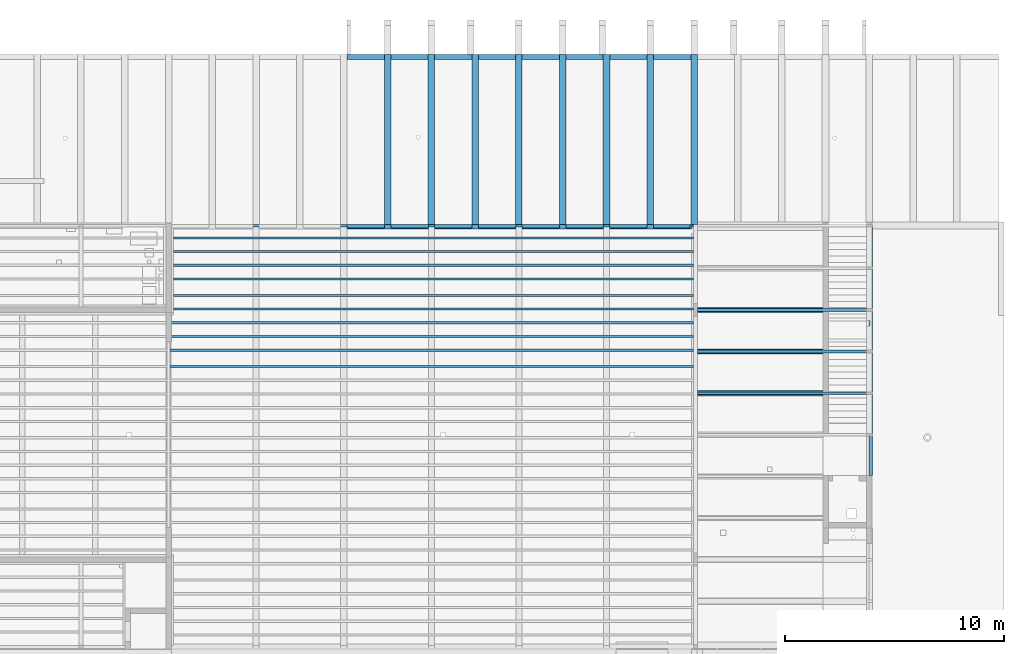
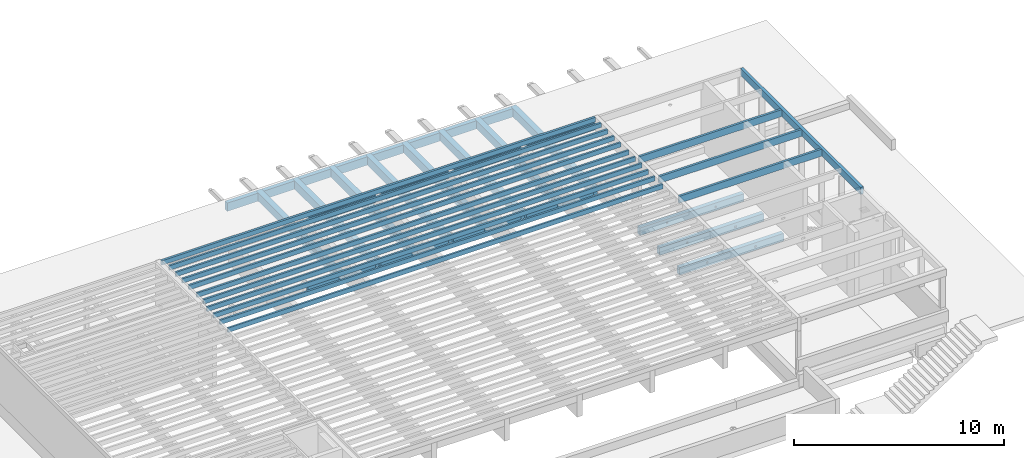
# One storey, part 4 of 14: 46 beams.
"""IFC2X3 building model written with IfcOpenShell, lengths in metres."""

from ifc_helpers import new_model, entity, si_unit, converted_unit, direction, frame, frame_2d, origin, origin_2d_with_axis, place, context, subcontext, project, spatial, rectangle, extrude, boolean, material, type_object, element, save


model = new_model("IFC2X3")

# Units and contexts
model_context = context("Model", 3, precision=1e-05, world=frame((30.086303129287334, 2.687674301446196, 462.0)), true_north=direction((0.19008937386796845, 0.9817667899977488)))
body_context = subcontext(model_context, "Body", "Model", "MODEL_VIEW")
ifc_project = project(units=[si_unit("LENGTHUNIT", "METRE"), si_unit("AREAUNIT", "SQUARE_METRE"), converted_unit("PLANEANGLEUNIT", "DEGREE", entity("IfcPlaneAngleMeasure", 0.017453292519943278), si_unit("PLANEANGLEUNIT", "RADIAN"), dimensions=[0, 0, 0, 0, 0, 0, 0]), si_unit("VOLUMEUNIT", "CUBIC_METRE")], contexts=[model_context])

# Site, building, storey
site_placement = place(None, origin())
site = spatial("IfcSite", under=ifc_project, at=site_placement, Name="Default", CompositionType="ELEMENT")
building_placement = place(site_placement, origin())
building = spatial("IfcBuilding", under=site, at=building_placement, CompositionType="ELEMENT")
storey_placement = place(building_placement, origin())
storey = spatial("IfcBuildingStorey", under=building, at=storey_placement, Name="FB_E00_OKFB", CompositionType="ELEMENT", Elevation=0.0)

# Beams
ifc_material_1 = material(Name="WS_TIMBER_GLT_0°")
beam_type_1 = type_object("IfcBeamType", Name="WS_TBM_GLT:TBM_GLT_300/480", PredefinedType="BEAM")
beam_1_placement = place(storey_placement, frame((72.10533609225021, 6.420351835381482, 3.935), z_axis=(0.0, 0.0, 1.0), x_axis=(0.0, -1.0, 0.0)))
element("IfcBeam", 1, at=beam_1_placement, inside=storey, type_object=beam_type_1, material=ifc_material_1, Name="WS_TBM_GLT:TBM_GLT_300/480", ObjectType="WS_TBM_GLT:TBM_GLT_300/480", context=body_context, shape_type="SweptSolid", body=[
    boolean("DIFFERENCE", boolean("DIFFERENCE", extrude(rectangle(XDim=0.4799999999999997, YDim=0.3000000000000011, at=frame_2d((0.0, 2.7755575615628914e-16), x_axis=(0.0, 1.0))), frame((-0.10999999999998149, 0.0, -0.24000000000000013), z_axis=(1.0, 0.0, 0.0), x_axis=(0.0, 1.0, 0.0)), (0.0, 0.0, 1.0), 7.764954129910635), extrude(rectangle(XDim=0.1, YDim=0.1, at=frame_2d((0.0, 0.0), x_axis=(0.0, 1.0))), frame((4.901341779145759, 0.14999999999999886, -0.23999999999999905), z_axis=(0.0, -1.0, 0.0), x_axis=(-1.0, 0.0, 0.0)), (0.0, 0.0, 1.0), 0.3000000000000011)), extrude(rectangle(XDim=0.1, YDim=0.1, at=frame_2d((0.0, 0.0), x_axis=(0.0, 1.0))), frame((4.3213417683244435, 0.14999999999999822, -0.2399999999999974), z_axis=(0.0, -1.0, 0.0), x_axis=(-1.0, 0.0, 0.0)), (0.0, 0.0, 1.0), 0.3000000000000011)),
])
beam_2_placement = place(storey_placement, frame((74.10533797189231, 6.420351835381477, 3.935), z_axis=(0.0, 0.0, 1.0), x_axis=(0.0, -1.0, 0.0)))
element("IfcBeam", 2, at=beam_2_placement, inside=storey, type_object=beam_type_1, material=ifc_material_1, Name="WS_TBM_GLT:TBM_GLT_300/480", ObjectType="WS_TBM_GLT:TBM_GLT_300/480", context=body_context, shape_type="SweptSolid", body=[
    boolean("DIFFERENCE", boolean("DIFFERENCE", extrude(rectangle(XDim=0.4799999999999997, YDim=0.3000000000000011, at=frame_2d((0.0, 2.7755575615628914e-16), x_axis=(0.0, 1.0))), frame((-0.10999999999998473, 0.0, -0.24000000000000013), z_axis=(1.0, 0.0, 0.0), x_axis=(0.0, 1.0, 0.0)), (0.0, 0.0, 1.0), 7.9249541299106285), extrude(rectangle(XDim=0.1, YDim=0.1, at=frame_2d((0.0, 0.0), x_axis=(0.0, 1.0))), frame((4.901341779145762, 0.14999999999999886, -0.23999999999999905), z_axis=(0.0, -1.0, 0.0), x_axis=(-1.0, 0.0, 0.0)), (0.0, 0.0, 1.0), 0.3000000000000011)), extrude(rectangle(XDim=0.1, YDim=0.1, at=frame_2d((0.0, 0.0), x_axis=(0.0, 1.0))), frame((4.321341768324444, 0.14999999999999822, -0.2399999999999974), z_axis=(0.0, -1.0, 0.0), x_axis=(-1.0, 0.0, 0.0)), (0.0, 0.0, 1.0), 0.3000000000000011)),
])
beam_3_placement = place(storey_placement, frame((76.10533735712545, 6.420351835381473, 3.935), z_axis=(0.0, 0.0, 1.0), x_axis=(0.0, -1.0, 0.0)))
element("IfcBeam", 3, at=beam_3_placement, inside=storey, type_object=beam_type_1, material=ifc_material_1, Name="WS_TBM_GLT:TBM_GLT_300/480", ObjectType="WS_TBM_GLT:TBM_GLT_300/480", context=body_context, shape_type="SweptSolid", body=[
    boolean("DIFFERENCE", boolean("DIFFERENCE", extrude(rectangle(XDim=0.4799999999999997, YDim=0.3000000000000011, at=frame_2d((0.0, 2.7755575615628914e-16), x_axis=(0.0, 1.0))), frame((-0.1099999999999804, 0.0, -0.24000000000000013), z_axis=(1.0, 0.0, 0.0), x_axis=(0.0, 1.0, 0.0)), (0.0, 0.0, 1.0), 7.764954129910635), extrude(rectangle(XDim=0.1, YDim=0.1, at=frame_2d((0.0, 0.0), x_axis=(0.0, 1.0))), frame((4.901341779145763, 0.14999999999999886, -0.23999999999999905), z_axis=(0.0, -1.0, 0.0), x_axis=(-1.0, 0.0, 0.0)), (0.0, 0.0, 1.0), 0.3000000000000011)), extrude(rectangle(XDim=0.1, YDim=0.1, at=frame_2d((0.0, 0.0), x_axis=(0.0, 1.0))), frame((4.321341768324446, 0.14999999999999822, -0.2399999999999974), z_axis=(0.0, -1.0, 0.0), x_axis=(-1.0, 0.0, 0.0)), (0.0, 0.0, 1.0), 0.3000000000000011)),
])
beam_4_placement = place(storey_placement, frame((78.10533759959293, 6.420351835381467, 3.935), z_axis=(0.0, 0.0, 1.0), x_axis=(0.0, -1.0, 0.0)))
element("IfcBeam", 4, at=beam_4_placement, inside=storey, type_object=beam_type_1, material=ifc_material_1, Name="WS_TBM_GLT:TBM_GLT_300/480", ObjectType="WS_TBM_GLT:TBM_GLT_300/480", context=body_context, shape_type="SweptSolid", body=[
    boolean("DIFFERENCE", boolean("DIFFERENCE", extrude(rectangle(XDim=0.4799999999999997, YDim=0.3000000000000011, at=frame_2d((0.0, 2.7755575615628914e-16), x_axis=(0.0, 1.0))), frame((-0.10999999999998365, 0.0, -0.24000000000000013), z_axis=(1.0, 0.0, 0.0), x_axis=(0.0, 1.0, 0.0)), (0.0, 0.0, 1.0), 7.9249541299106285), extrude(rectangle(XDim=0.09999999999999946, YDim=0.1, at=frame_2d((0.0, 2.706168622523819e-16), x_axis=(0.0, 1.0))), frame((4.901341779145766, 0.14999999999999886, -0.23999999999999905), z_axis=(0.0, -1.0, 0.0), x_axis=(-1.0, 0.0, 0.0)), (0.0, 0.0, 1.0), 0.30000000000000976)), extrude(rectangle(XDim=0.1, YDim=0.1, at=frame_2d((0.0, 0.0), x_axis=(0.0, 1.0))), frame((4.321341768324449, 0.14999999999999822, -0.2399999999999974), z_axis=(0.0, -1.0, 0.0), x_axis=(-1.0, 0.0, 0.0)), (0.0, 0.0, 1.0), 0.30000000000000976)),
])
beam_5_placement = place(storey_placement, frame((80.10533735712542, 6.420351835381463, 3.935), z_axis=(0.0, 0.0, 1.0), x_axis=(0.0, -1.0, 0.0)))
element("IfcBeam", 5, at=beam_5_placement, inside=storey, type_object=beam_type_1, material=ifc_material_1, Name="WS_TBM_GLT:TBM_GLT_300/480", ObjectType="WS_TBM_GLT:TBM_GLT_300/480", context=body_context, shape_type="SweptSolid", body=[
    boolean("DIFFERENCE", boolean("DIFFERENCE", extrude(rectangle(XDim=0.4799999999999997, YDim=0.3000000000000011, at=frame_2d((1.7319479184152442e-14, 2.7755575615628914e-16), x_axis=(0.0, 1.0))), frame((-0.10999999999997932, 0.0, -0.24000000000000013), z_axis=(1.0, 0.0, 0.0), x_axis=(0.0, 1.0, 0.0)), (0.0, 0.0, 1.0), 7.764954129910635), extrude(rectangle(XDim=0.09999999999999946, YDim=0.1, at=frame_2d((0.0, 2.706168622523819e-16), x_axis=(0.0, 1.0))), frame((4.901341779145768, 0.14999999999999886, -0.23999999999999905), z_axis=(0.0, -1.0, 0.0), x_axis=(-1.0, 0.0, 0.0)), (0.0, 0.0, 1.0), 0.3000000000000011)), extrude(rectangle(XDim=0.1, YDim=0.1, at=frame_2d((0.0, 0.0), x_axis=(0.0, 1.0))), frame((4.321341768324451, 0.14999999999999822, -0.2399999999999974), z_axis=(0.0, -1.0, 0.0), x_axis=(-1.0, 0.0, 0.0)), (0.0, 0.0, 1.0), 0.3000000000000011)),
])
beam_6_placement = place(storey_placement, frame((82.10533722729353, 6.4203518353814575, 3.935), z_axis=(0.0, 0.0, 1.0), x_axis=(0.0, -1.0, 0.0)))
element("IfcBeam", 6, at=beam_6_placement, inside=storey, type_object=beam_type_1, material=ifc_material_1, Name="WS_TBM_GLT:TBM_GLT_300/480", ObjectType="WS_TBM_GLT:TBM_GLT_300/480", context=body_context, shape_type="SweptSolid", body=[
    boolean("DIFFERENCE", boolean("DIFFERENCE", extrude(rectangle(XDim=0.4799999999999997, YDim=0.3000000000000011, at=frame_2d((0.0, 2.7755575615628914e-16), x_axis=(0.0, 1.0))), frame((-0.10999999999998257, 0.0, -0.24000000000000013), z_axis=(1.0, 0.0, 0.0), x_axis=(0.0, 1.0, 0.0)), (0.0, 0.0, 1.0), 7.9249541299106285), extrude(rectangle(XDim=0.09999999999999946, YDim=0.1, at=frame_2d((0.0, 2.706168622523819e-16), x_axis=(0.0, 1.0))), frame((4.901341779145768, 0.14999999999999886, -0.23999999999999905), z_axis=(0.0, -1.0, 0.0), x_axis=(-1.0, 0.0, 0.0)), (0.0, 0.0, 1.0), 0.3000000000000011)), extrude(rectangle(XDim=0.1, YDim=0.1, at=frame_2d((0.0, 0.0), x_axis=(0.0, 1.0))), frame((4.3213417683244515, 0.14999999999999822, -0.2399999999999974), z_axis=(0.0, -1.0, 0.0), x_axis=(-1.0, 0.0, 0.0)), (0.0, 0.0, 1.0), 0.3000000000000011)),
])
beam_7_placement = place(storey_placement, frame((84.10533735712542, 6.420351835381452, 3.935), z_axis=(0.0, 0.0, 1.0), x_axis=(0.0, -1.0, 0.0)))
element("IfcBeam", 7, at=beam_7_placement, inside=storey, type_object=beam_type_1, material=ifc_material_1, Name="WS_TBM_GLT:TBM_GLT_300/480", ObjectType="WS_TBM_GLT:TBM_GLT_300/480", context=body_context, shape_type="SweptSolid", body=[
    boolean("DIFFERENCE", boolean("DIFFERENCE", extrude(rectangle(XDim=0.4799999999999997, YDim=0.3000000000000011, at=frame_2d((1.7319479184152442e-14, 2.7755575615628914e-16), x_axis=(0.0, 1.0))), frame((-0.10999999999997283, 0.0, -0.24000000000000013), z_axis=(1.0, 0.0, 0.0), x_axis=(0.0, 1.0, 0.0)), (0.0, 0.0, 1.0), 7.764952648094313), extrude(rectangle(XDim=0.09999999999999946, YDim=0.1, at=frame_2d((0.0, 2.706168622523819e-16), x_axis=(0.0, 1.0))), frame((4.9013417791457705, 0.14999999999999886, -0.23999999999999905), z_axis=(0.0, -1.0, 0.0), x_axis=(-1.0, 0.0, 0.0)), (0.0, 0.0, 1.0), 0.3000000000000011)), extrude(rectangle(XDim=0.1, YDim=0.1, at=frame_2d((0.0, 0.0), x_axis=(0.0, 1.0))), frame((4.321341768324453, 0.14999999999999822, -0.2399999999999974), z_axis=(0.0, -1.0, 0.0), x_axis=(-1.0, 0.0, 0.0)), (0.0, 0.0, 1.0), 0.3000000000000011)),
])
beam_8_placement = place(storey_placement, frame((70.10533834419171, 6.420351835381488, 3.935), z_axis=(0.0, 0.0, 1.0), x_axis=(0.0, -1.0, 0.0)))
element("IfcBeam", 8, at=beam_8_placement, inside=storey, type_object=beam_type_1, material=ifc_material_1, Name="WS_TBM_GLT:TBM_GLT_300/480", ObjectType="WS_TBM_GLT:TBM_GLT_300/480", context=body_context, shape_type="SweptSolid", body=[
    boolean("DIFFERENCE", boolean("DIFFERENCE", extrude(rectangle(XDim=0.4799999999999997, YDim=0.3000000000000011, at=frame_2d((0.0, 2.7755575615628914e-16), x_axis=(0.0, 1.0))), frame((-0.1099999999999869, 0.0, -0.24000000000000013), z_axis=(1.0, 0.0, 0.0), x_axis=(0.0, 1.0, 0.0)), (0.0, 0.0, 1.0), 7.9249541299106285), extrude(rectangle(XDim=0.1, YDim=0.1, at=frame_2d((0.0, 0.0), x_axis=(0.0, 1.0))), frame((4.901341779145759, 0.14999999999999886, -0.23999999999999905), z_axis=(0.0, -1.0, 0.0), x_axis=(-1.0, 0.0, 0.0)), (0.0, 0.0, 1.0), 0.3000000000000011)), extrude(rectangle(XDim=0.1, YDim=0.1, at=frame_2d((0.0, 0.0), x_axis=(0.0, 1.0))), frame((4.321341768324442, 0.14999999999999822, -0.2399999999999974), z_axis=(0.0, -1.0, 0.0), x_axis=(-1.0, 0.0, 0.0)), (0.0, 0.0, 1.0), 0.3000000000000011)),
])
beam_type_2 = type_object("IfcBeamType", Name="WS_TBM_GLT:TBM_GLT_220/480", PredefinedType="BEAM")
beam_9_placement = place(storey_placement, frame((68.10533735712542, 6.420351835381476, 3.935)))
element("IfcBeam", 9, at=beam_9_placement, inside=storey, type_object=beam_type_2, material=ifc_material_1, Name="WS_TBM_GLT:TBM_GLT_220/480", ObjectType="WS_TBM_GLT:TBM_GLT_220/480", context=body_context, shape_type="SweptSolid", body=[
    extrude(rectangle(XDim=0.47999999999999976, YDim=0.2199999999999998, at=frame_2d((2.636779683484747e-16, 4.3298697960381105e-15), x_axis=(1.0, 0.0))), frame((0.15000000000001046, 0.0, -0.23999999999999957), z_axis=(1.0, 0.0, 0.0), x_axis=(0.0, 0.0, -1.0)), (0.0, 0.0, 1.0), 1.7000009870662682),
])
beam_10_placement = place(storey_placement, frame((70.10533834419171, 6.420351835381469, 3.935)))
element("IfcBeam", 10, at=beam_10_placement, inside=storey, type_object=beam_type_2, material=ifc_material_1, Name="WS_TBM_GLT:TBM_GLT_220/480", ObjectType="WS_TBM_GLT:TBM_GLT_220/480", context=body_context, shape_type="SweptSolid", body=[
    extrude(rectangle(XDim=0.47999999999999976, YDim=0.2199999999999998, at=frame_2d((2.636779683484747e-16, 4.3298697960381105e-15), x_axis=(1.0, 0.0))), frame((0.1500000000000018, 0.0, -0.23999999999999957), z_axis=(1.0, 0.0, 0.0), x_axis=(0.0, 0.0, -1.0)), (0.0, 0.0, 1.0), 1.6999977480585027),
])
beam_11_placement = place(storey_placement, frame((72.10533609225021, 6.420351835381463, 3.935)))
element("IfcBeam", 11, at=beam_11_placement, inside=storey, type_object=beam_type_2, material=ifc_material_1, Name="WS_TBM_GLT:TBM_GLT_220/480", ObjectType="WS_TBM_GLT:TBM_GLT_220/480", context=body_context, shape_type="SweptSolid", body=[
    extrude(rectangle(XDim=0.47999999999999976, YDim=0.2199999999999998, at=frame_2d((2.636779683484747e-16, 4.3298697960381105e-15), x_axis=(1.0, 0.0))), frame((0.1500000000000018, 0.0, -0.23999999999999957), z_axis=(1.0, 0.0, 0.0), x_axis=(0.0, 0.0, -1.0)), (0.0, 0.0, 1.0), 1.7000018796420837),
])
beam_12_placement = place(storey_placement, frame((74.10533797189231, 6.420351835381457, 3.935)))
element("IfcBeam", 12, at=beam_12_placement, inside=storey, type_object=beam_type_2, material=ifc_material_1, Name="WS_TBM_GLT:TBM_GLT_220/480", ObjectType="WS_TBM_GLT:TBM_GLT_220/480", context=body_context, shape_type="SweptSolid", body=[
    extrude(rectangle(XDim=0.47999999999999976, YDim=0.2199999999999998, at=frame_2d((2.636779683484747e-16, 4.3298697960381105e-15), x_axis=(1.0, 0.0))), frame((0.15000000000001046, 0.0, -0.23999999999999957), z_axis=(1.0, 0.0, 0.0), x_axis=(0.0, 0.0, -1.0)), (0.0, 0.0, 1.0), 1.6999993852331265),
])
beam_13_placement = place(storey_placement, frame((76.10533735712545, 6.4203518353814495, 3.935)))
element("IfcBeam", 13, at=beam_13_placement, inside=storey, type_object=beam_type_2, material=ifc_material_1, Name="WS_TBM_GLT:TBM_GLT_220/480", ObjectType="WS_TBM_GLT:TBM_GLT_220/480", context=body_context, shape_type="SweptSolid", body=[
    extrude(rectangle(XDim=0.47999999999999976, YDim=0.2199999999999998, at=frame_2d((2.636779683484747e-16, 4.3298697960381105e-15), x_axis=(1.0, 0.0))), frame((0.1500000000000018, 0.0, -0.23999999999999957), z_axis=(1.0, 0.0, 0.0), x_axis=(0.0, 0.0, -1.0)), (0.0, 0.0, 1.0), 1.700000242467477),
])
beam_14_placement = place(storey_placement, frame((78.10533759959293, 6.420351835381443, 3.935)))
element("IfcBeam", 14, at=beam_14_placement, inside=storey, type_object=beam_type_2, material=ifc_material_1, Name="WS_TBM_GLT:TBM_GLT_220/480", ObjectType="WS_TBM_GLT:TBM_GLT_220/480", context=body_context, shape_type="SweptSolid", body=[
    extrude(rectangle(XDim=0.47999999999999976, YDim=0.2199999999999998, at=frame_2d((2.636779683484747e-16, 4.3298697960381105e-15), x_axis=(1.0, 0.0))), frame((0.1500000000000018, 0.0, -0.23999999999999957), z_axis=(1.0, 0.0, 0.0), x_axis=(0.0, 0.0, -1.0)), (0.0, 0.0, 1.0), 1.699999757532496),
])
beam_15_placement = place(storey_placement, frame((80.10533735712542, 6.420351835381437, 3.935)))
element("IfcBeam", 15, at=beam_15_placement, inside=storey, type_object=beam_type_2, material=ifc_material_1, Name="WS_TBM_GLT:TBM_GLT_220/480", ObjectType="WS_TBM_GLT:TBM_GLT_220/480", context=body_context, shape_type="SweptSolid", body=[
    extrude(rectangle(XDim=0.47999999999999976, YDim=0.2199999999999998, at=frame_2d((2.636779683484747e-16, 4.3298697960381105e-15), x_axis=(1.0, 0.0))), frame((0.1500000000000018, 0.0, -0.23999999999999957), z_axis=(1.0, 0.0, 0.0), x_axis=(0.0, 0.0, -1.0)), (0.0, 0.0, 1.0), 1.6999998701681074),
])
beam_16_placement = place(storey_placement, frame((82.10533722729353, 6.42035183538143, 3.935)))
element("IfcBeam", 16, at=beam_16_placement, inside=storey, type_object=beam_type_2, material=ifc_material_1, Name="WS_TBM_GLT:TBM_GLT_220/480", ObjectType="WS_TBM_GLT:TBM_GLT_220/480", context=body_context, shape_type="SweptSolid", body=[
    extrude(rectangle(XDim=0.47999999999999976, YDim=0.2199999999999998, at=frame_2d((2.636779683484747e-16, 4.3298697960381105e-15), x_axis=(1.0, 0.0))), frame((0.1500000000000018, 0.0, -0.23999999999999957), z_axis=(1.0, 0.0, 0.0), x_axis=(0.0, 0.0, -1.0)), (0.0, 0.0, 1.0), 1.700000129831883),
])
beam_type_3 = type_object("IfcBeamType", Name="WS_TBM_GLT:TBM_GLT_160/480", PredefinedType="BEAM")
beam_17_placement = place(storey_placement, frame((80.10533735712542, -1.3146022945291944, 3.935)))
element("IfcBeam", 17, at=beam_17_placement, inside=storey, type_object=beam_type_3, material=ifc_material_1, Name="WS_TBM_GLT:TBM_GLT_160/480", ObjectType="WS_TBM_GLT:TBM_GLT_160/480", context=body_context, shape_type="SweptSolid", body=[
    extrude(rectangle(XDim=0.4799999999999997, YDim=0.15999999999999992, at=frame_2d((2.7755575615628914e-16, 4.3298697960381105e-15), x_axis=(1.0, 0.0))), frame((0.14000000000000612, 0.0, -0.23999999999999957), z_axis=(1.0, 0.0, 0.0), x_axis=(0.0, 0.0, -1.0)), (0.0, 0.0, 1.0), 1.7099998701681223),
])
beam_18_placement = place(storey_placement, frame((82.10533722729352, -1.314602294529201, 3.935)))
element("IfcBeam", 18, at=beam_18_placement, inside=storey, type_object=beam_type_3, material=ifc_material_1, Name="WS_TBM_GLT:TBM_GLT_160/480", ObjectType="WS_TBM_GLT:TBM_GLT_160/480", context=body_context, shape_type="SweptSolid", body=[
    extrude(rectangle(XDim=0.47999999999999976, YDim=0.15999999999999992, at=frame_2d((2.636779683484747e-16, 4.0592529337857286e-15), x_axis=(1.0, 0.0))), frame((0.15000000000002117, 0.0, -0.23999999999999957), z_axis=(1.0, 0.0, 0.0), x_axis=(0.0, 0.0, -1.0)), (0.0, 0.0, 1.0), 1.670001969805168),
])
beam_19_placement = place(storey_placement, frame((76.10533735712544, -1.3146022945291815, 3.935)))
element("IfcBeam", 19, at=beam_19_placement, inside=storey, type_object=beam_type_3, material=ifc_material_1, Name="WS_TBM_GLT:TBM_GLT_160/480", ObjectType="WS_TBM_GLT:TBM_GLT_160/480", context=body_context, shape_type="SweptSolid", body=[
    extrude(rectangle(XDim=0.4799999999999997, YDim=0.15999999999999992, at=frame_2d((2.7755575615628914e-16, 4.3298697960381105e-15), x_axis=(1.0, 0.0))), frame((0.14000000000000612, 0.0, -0.23999999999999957), z_axis=(1.0, 0.0, 0.0), x_axis=(0.0, 0.0, -1.0)), (0.0, 0.0, 1.0), 1.7100002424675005),
])
beam_20_placement = place(storey_placement, frame((78.10533759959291, -1.314602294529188, 3.935)))
element("IfcBeam", 20, at=beam_20_placement, inside=storey, type_object=beam_type_3, material=ifc_material_1, Name="WS_TBM_GLT:TBM_GLT_160/480", ObjectType="WS_TBM_GLT:TBM_GLT_160/480", context=body_context, shape_type="SweptSolid", body=[
    extrude(rectangle(XDim=0.4799999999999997, YDim=0.15999999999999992, at=frame_2d((2.7755575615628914e-16, 4.3298697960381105e-15), x_axis=(1.0, 0.0))), frame((0.1500000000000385, 0.0, -0.23999999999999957), z_axis=(1.0, 0.0, 0.0), x_axis=(0.0, 0.0, -1.0)), (0.0, 0.0, 1.0), 1.709999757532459),
])
beam_21_placement = place(storey_placement, frame((72.10533609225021, -1.3146022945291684, 3.935)))
element("IfcBeam", 21, at=beam_21_placement, inside=storey, type_object=beam_type_3, material=ifc_material_1, Name="WS_TBM_GLT:TBM_GLT_160/480", ObjectType="WS_TBM_GLT:TBM_GLT_160/480", context=body_context, shape_type="SweptSolid", body=[
    extrude(rectangle(XDim=0.4799999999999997, YDim=0.15999999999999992, at=frame_2d((2.7755575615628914e-16, 4.3298697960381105e-15), x_axis=(1.0, 0.0))), frame((0.13999999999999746, 0.0, -0.23999999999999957), z_axis=(1.0, 0.0, 0.0), x_axis=(0.0, 0.0, -1.0)), (0.0, 0.0, 1.0), 1.7100018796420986),
])
beam_22_placement = place(storey_placement, frame((74.10533797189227, -1.314602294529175, 3.935)))
element("IfcBeam", 22, at=beam_22_placement, inside=storey, type_object=beam_type_3, material=ifc_material_1, Name="WS_TBM_GLT:TBM_GLT_160/480", ObjectType="WS_TBM_GLT:TBM_GLT_160/480", context=body_context, shape_type="SweptSolid", body=[
    extrude(rectangle(XDim=0.4799999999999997, YDim=0.15999999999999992, at=frame_2d((2.7755575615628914e-16, 4.3298697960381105e-15), x_axis=(1.0, 0.0))), frame((0.1500000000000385, 0.0, -0.23999999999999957), z_axis=(1.0, 0.0, 0.0), x_axis=(0.0, 0.0, -1.0)), (0.0, 0.0, 1.0), 1.7099993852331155),
])
beam_23_placement = place(storey_placement, frame((68.10533735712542, -1.3146022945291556, 3.935)))
element("IfcBeam", 23, at=beam_23_placement, inside=storey, type_object=beam_type_3, material=ifc_material_1, Name="WS_TBM_GLT:TBM_GLT_160/480", ObjectType="WS_TBM_GLT:TBM_GLT_160/480", context=body_context, shape_type="SweptSolid", body=[
    extrude(rectangle(XDim=0.4799999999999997, YDim=0.15999999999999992, at=frame_2d((2.7755575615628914e-16, 4.3298697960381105e-15), x_axis=(1.0, 0.0))), frame((0.14000000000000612, 0.0, -0.23999999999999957), z_axis=(1.0, 0.0, 0.0), x_axis=(0.0, 0.0, -1.0)), (0.0, 0.0, 1.0), 1.7100009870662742),
])
beam_24_placement = place(storey_placement, frame((70.10533834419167, -1.314602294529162, 3.935)))
element("IfcBeam", 24, at=beam_24_placement, inside=storey, type_object=beam_type_3, material=ifc_material_1, Name="WS_TBM_GLT:TBM_GLT_160/480", ObjectType="WS_TBM_GLT:TBM_GLT_160/480", context=body_context, shape_type="SweptSolid", body=[
    extrude(rectangle(XDim=0.4799999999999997, YDim=0.15999999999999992, at=frame_2d((2.7755575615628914e-16, 4.3298697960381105e-15), x_axis=(1.0, 0.0))), frame((0.1500000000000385, 0.0, -0.23999999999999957), z_axis=(1.0, 0.0, 0.0), x_axis=(0.0, 0.0, -1.0)), (0.0, 0.0, 1.0), 1.7099977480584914),
])
beam_type_4 = type_object("IfcBeamType", Name="WS_TBM_GLT:TBM_GLT_240/440", PredefinedType="BEAM")
beam_25_placement = place(storey_placement, frame((90.10533735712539, -5.134648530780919, 3.8950000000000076), z_axis=(0.0, 0.0, 1.0), x_axis=(-1.0, 0.0, 0.0)))
element("IfcBeam", 25, at=beam_25_placement, inside=storey, type_object=beam_type_4, material=ifc_material_1, Name="WS_TBM_GLT:TBM_GLT_240/440", ObjectType="WS_TBM_GLT:TBM_GLT_240/440", context=body_context, shape_type="SweptSolid", body=[
    boolean("DIFFERENCE", boolean("DIFFERENCE", extrude(rectangle(XDim=0.44000000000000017, YDim=0.2399999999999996, at=frame_2d((-8.666678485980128e-15, 2.636779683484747e-16), x_axis=(0.0, 1.0))), frame((0.12499984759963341, 0.0, -0.22000000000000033), z_axis=(1.0, 0.0, 0.0), x_axis=(0.0, 1.0, 0.0)), (0.0, 0.0, 1.0), 5.724998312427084), extrude(rectangle(XDim=0.1, YDim=0.0999999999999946, at=frame_2d((-8.659739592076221e-15, 0.0), x_axis=(0.0, 1.0))), frame((4.335939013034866, 0.12000000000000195, -0.22000000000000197), z_axis=(0.0, -1.0, 0.0), x_axis=(-1.0, 0.0, 0.0)), (0.0, 0.0, 1.0), 0.23999999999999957)), extrude(rectangle(XDim=0.1, YDim=0.0999999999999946, at=frame_2d((8.659739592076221e-15, 0.0), x_axis=(0.0, 1.0))), frame((1.67779208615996, 0.12000000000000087, -0.22000000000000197), z_axis=(0.0, -1.0, 0.0), x_axis=(-1.0, 0.0, 0.0)), (0.0, 0.0, 1.0), 0.23999999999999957)),
])
beam_26_placement = place(storey_placement, frame((90.10533735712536, -7.034648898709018, 3.8950000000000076), z_axis=(0.0, 0.0, 1.0), x_axis=(-1.0, 0.0, 0.0)))
element("IfcBeam", 26, at=beam_26_placement, inside=storey, type_object=beam_type_4, material=ifc_material_1, Name="WS_TBM_GLT:TBM_GLT_240/440", ObjectType="WS_TBM_GLT:TBM_GLT_240/440", context=body_context, shape_type="SweptSolid", body=[
    boolean("DIFFERENCE", boolean("DIFFERENCE", extrude(rectangle(XDim=0.44000000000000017, YDim=0.2399999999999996, at=frame_2d((-8.666678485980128e-15, 2.636779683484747e-16), x_axis=(0.0, 1.0))), frame((0.1249998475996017, 0.0, -0.22000000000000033), z_axis=(1.0, 0.0, 0.0), x_axis=(0.0, 1.0, 0.0)), (0.0, 0.0, 1.0), 5.724998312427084), extrude(rectangle(XDim=0.1, YDim=0.0999999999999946, at=frame_2d((8.659739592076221e-15, 0.0), x_axis=(0.0, 1.0))), frame((4.335939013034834, 0.12000000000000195, -0.22000000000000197), z_axis=(0.0, -1.0, 0.0), x_axis=(-1.0, 0.0, 0.0)), (0.0, 0.0, 1.0), 0.23999999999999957)), extrude(rectangle(XDim=0.1, YDim=0.0999999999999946, at=frame_2d((-8.659739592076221e-15, 0.0), x_axis=(0.0, 1.0))), frame((1.6777920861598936, 0.12000000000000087, -0.22000000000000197), z_axis=(0.0, -1.0, 0.0), x_axis=(-1.0, 0.0, 0.0)), (0.0, 0.0, 1.0), 0.23999999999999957)),
])
beam_27_placement = place(storey_placement, frame((90.10533735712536, -8.93464926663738, 3.8950000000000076), z_axis=(0.0, 0.0, 1.0), x_axis=(-1.0, 0.0, 0.0)))
element("IfcBeam", 27, at=beam_27_placement, inside=storey, type_object=beam_type_4, material=ifc_material_1, Name="WS_TBM_GLT:TBM_GLT_240/440", ObjectType="WS_TBM_GLT:TBM_GLT_240/440", context=body_context, shape_type="SweptSolid", body=[
    boolean("DIFFERENCE", boolean("DIFFERENCE", extrude(rectangle(XDim=0.44000000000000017, YDim=0.2399999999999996, at=frame_2d((-9.749145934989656e-15, 2.636779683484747e-16), x_axis=(0.0, 1.0))), frame((0.12499984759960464, 0.0, -0.22000000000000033), z_axis=(1.0, 0.0, 0.0), x_axis=(0.0, 1.0, 0.0)), (0.0, 0.0, 1.0), 5.724998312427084), extrude(rectangle(XDim=0.1, YDim=0.0999999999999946, at=frame_2d((8.659739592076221e-15, 0.0), x_axis=(0.0, 1.0))), frame((4.335939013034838, 0.12000000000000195, -0.22000000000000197), z_axis=(0.0, -1.0, 0.0), x_axis=(-1.0, 0.0, 0.0)), (0.0, 0.0, 1.0), 0.23999999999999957)), extrude(rectangle(XDim=0.1, YDim=0.0999999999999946, at=frame_2d((-8.659739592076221e-15, 0.0), x_axis=(0.0, 1.0))), frame((1.6777920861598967, 0.12000000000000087, -0.22000000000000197), z_axis=(0.0, -1.0, 0.0), x_axis=(-1.0, 0.0, 0.0)), (0.0, 0.0, 1.0), 0.23999999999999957)),
])
ifc_material_2 = material(Name="WS_TIMBER")
beam_type_5 = type_object("IfcBeamType", Name="WS_TBM_KVH:TBM_KVH_100/260", PredefinedType="BEAM")
beam_28_placement = place(storey_placement, frame((84.16533735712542, -5.722106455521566, 8.04), z_axis=(0.0, 0.0, 1.0), x_axis=(-1.0, 0.0, 0.0)))
element("IfcBeam", 28, at=beam_28_placement, inside=storey, type_object=beam_type_5, material=ifc_material_2, Name="WS_TBM_KVH:TBM_KVH_100/260", ObjectType="WS_TBM_KVH:TBM_KVH_100/260", context=body_context, shape_type="SweptSolid", body=[
    extrude(rectangle(XDim=0.26000000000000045, YDim=0.09999999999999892, at=frame_2d((5.412337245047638e-16, 7.688294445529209e-14), x_axis=(1.0, 0.0))), frame((0.09000000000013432, 0.0, -0.1299999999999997), z_axis=(1.0, 0.0, 0.0), x_axis=(0.0, 0.0, -1.0)), (0.0, 0.0, 1.0), 23.909999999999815),
])
beam_29_placement = place(storey_placement, frame((84.16533735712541, -6.347106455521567, 8.04), z_axis=(0.0, 0.0, 1.0), x_axis=(-1.0, 0.0, 0.0)))
element("IfcBeam", 29, at=beam_29_placement, inside=storey, type_object=beam_type_5, material=ifc_material_2, Name="WS_TBM_KVH:TBM_KVH_100/260", ObjectType="WS_TBM_KVH:TBM_KVH_100/260", context=body_context, shape_type="SweptSolid", body=[
    extrude(rectangle(XDim=0.26000000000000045, YDim=0.09999999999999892, at=frame_2d((5.412337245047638e-16, 7.688294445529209e-14), x_axis=(1.0, 0.0))), frame((0.0900000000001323, 0.0, -0.1299999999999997), z_axis=(1.0, 0.0, 0.0), x_axis=(0.0, 0.0, -1.0)), (0.0, 0.0, 1.0), 23.909999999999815),
])
beam_30_placement = place(storey_placement, frame((84.16533735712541, -6.972106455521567, 8.04), z_axis=(0.0, 0.0, 1.0), x_axis=(-1.0, 0.0, 0.0)))
element("IfcBeam", 30, at=beam_30_placement, inside=storey, type_object=beam_type_5, material=ifc_material_2, Name="WS_TBM_KVH:TBM_KVH_100/260", ObjectType="WS_TBM_KVH:TBM_KVH_100/260", context=body_context, shape_type="SweptSolid", body=[
    extrude(rectangle(XDim=0.26000000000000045, YDim=0.09999999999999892, at=frame_2d((5.412337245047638e-16, 7.688294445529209e-14), x_axis=(1.0, 0.0))), frame((0.09000000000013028, 0.0, -0.1299999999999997), z_axis=(1.0, 0.0, 0.0), x_axis=(0.0, 0.0, -1.0)), (0.0, 0.0, 1.0), 23.909999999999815),
])
beam_31_placement = place(storey_placement, frame((84.16533735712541, -7.722106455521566, 8.04), z_axis=(0.0, 0.0, 1.0), x_axis=(-1.0, 0.0, 0.0)))
element("IfcBeam", 31, at=beam_31_placement, inside=storey, type_object=beam_type_5, material=ifc_material_2, Name="WS_TBM_KVH:TBM_KVH_100/260", ObjectType="WS_TBM_KVH:TBM_KVH_100/260", context=body_context, shape_type="SweptSolid", body=[
    extrude(rectangle(XDim=0.26000000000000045, YDim=0.09999999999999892, at=frame_2d((5.412337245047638e-16, 7.688294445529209e-14), x_axis=(1.0, 0.0))), frame((0.09000000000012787, 0.0, -0.1299999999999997), z_axis=(1.0, 0.0, 0.0), x_axis=(0.0, 0.0, -1.0)), (0.0, 0.0, 1.0), 23.909999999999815),
])
beam_32_placement = place(storey_placement, frame((84.16533735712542, -3.722106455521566, 8.04), z_axis=(0.0, 0.0, 1.0), x_axis=(-1.0, 0.0, 0.0)))
element("IfcBeam", 32, at=beam_32_placement, inside=storey, type_object=beam_type_5, material=ifc_material_2, Name="WS_TBM_KVH:TBM_KVH_100/260", ObjectType="WS_TBM_KVH:TBM_KVH_100/260", context=body_context, shape_type="SweptSolid", body=[
    extrude(rectangle(XDim=0.26000000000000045, YDim=0.1, at=frame_2d((5.412337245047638e-16, 7.688294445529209e-14), x_axis=(1.0, 0.0))), frame((0.09000000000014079, 0.0, -0.1299999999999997), z_axis=(1.0, 0.0, 0.0), x_axis=(0.0, 0.0, -1.0)), (0.0, 0.0, 1.0), 23.744999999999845),
])
beam_33_placement = place(storey_placement, frame((84.16533735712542, -3.0971064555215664, 8.04), z_axis=(0.0, 0.0, 1.0), x_axis=(-1.0, 0.0, 0.0)))
element("IfcBeam", 33, at=beam_33_placement, inside=storey, type_object=beam_type_5, material=ifc_material_2, Name="WS_TBM_KVH:TBM_KVH_100/260", ObjectType="WS_TBM_KVH:TBM_KVH_100/260", context=body_context, shape_type="SweptSolid", body=[
    extrude(rectangle(XDim=0.26000000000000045, YDim=0.1, at=frame_2d((5.412337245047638e-16, 7.688294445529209e-14), x_axis=(1.0, 0.0))), frame((0.0900000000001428, 0.0, -0.1299999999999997), z_axis=(1.0, 0.0, 0.0), x_axis=(0.0, 0.0, -1.0)), (0.0, 0.0, 1.0), 23.744999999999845),
])
beam_34_placement = place(storey_placement, frame((84.16533735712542, -2.4721064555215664, 8.04), z_axis=(0.0, 0.0, 1.0), x_axis=(-1.0, 0.0, 0.0)))
element("IfcBeam", 34, at=beam_34_placement, inside=storey, type_object=beam_type_5, material=ifc_material_2, Name="WS_TBM_KVH:TBM_KVH_100/260", ObjectType="WS_TBM_KVH:TBM_KVH_100/260", context=body_context, shape_type="SweptSolid", body=[
    extrude(rectangle(XDim=0.26000000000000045, YDim=0.1, at=frame_2d((5.412337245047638e-16, 7.634171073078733e-14), x_axis=(1.0, 0.0))), frame((0.09000000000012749, 0.0, -0.1299999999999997), z_axis=(1.0, 0.0, 0.0), x_axis=(0.0, 0.0, -1.0)), (0.0, 0.0, 1.0), 23.744999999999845),
])
beam_35_placement = place(storey_placement, frame((84.16533735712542, -1.8471064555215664, 8.04), z_axis=(0.0, 0.0, 1.0), x_axis=(-1.0, 0.0, 0.0)))
element("IfcBeam", 35, at=beam_35_placement, inside=storey, type_object=beam_type_5, material=ifc_material_2, Name="WS_TBM_KVH:TBM_KVH_100/260", ObjectType="WS_TBM_KVH:TBM_KVH_100/260", context=body_context, shape_type="SweptSolid", body=[
    extrude(rectangle(XDim=0.26000000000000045, YDim=0.1, at=frame_2d((5.412337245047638e-16, 7.661232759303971e-14), x_axis=(1.0, 0.0))), frame((0.0900000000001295, 0.0, -0.1299999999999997), z_axis=(1.0, 0.0, 0.0), x_axis=(0.0, 0.0, -1.0)), (0.0, 0.0, 1.0), 23.744999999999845),
])
beam_36_placement = place(storey_placement, frame((84.16533735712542, -5.097106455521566, 8.04), z_axis=(0.0, 0.0, 1.0), x_axis=(-1.0, 0.0, 0.0)))
element("IfcBeam", 36, at=beam_36_placement, inside=storey, type_object=beam_type_5, material=ifc_material_2, Name="WS_TBM_KVH:TBM_KVH_100/260", ObjectType="WS_TBM_KVH:TBM_KVH_100/260", context=body_context, shape_type="SweptSolid", body=[
    extrude(rectangle(XDim=0.26000000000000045, YDim=0.09999999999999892, at=frame_2d((5.412337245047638e-16, 7.688294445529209e-14), x_axis=(1.0, 0.0))), frame((0.09000000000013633, 0.0, -0.1299999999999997), z_axis=(1.0, 0.0, 0.0), x_axis=(0.0, 0.0, -1.0)), (0.0, 0.0, 1.0), 23.744999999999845),
])
beam_37_placement = place(storey_placement, frame((84.16533735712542, -4.472106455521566, 8.04), z_axis=(0.0, 0.0, 1.0), x_axis=(-1.0, 0.0, 0.0)))
element("IfcBeam", 37, at=beam_37_placement, inside=storey, type_object=beam_type_5, material=ifc_material_2, Name="WS_TBM_KVH:TBM_KVH_100/260", ObjectType="WS_TBM_KVH:TBM_KVH_100/260", context=body_context, shape_type="SweptSolid", body=[
    extrude(rectangle(XDim=0.26000000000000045, YDim=0.1, at=frame_2d((5.412337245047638e-16, 7.688294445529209e-14), x_axis=(1.0, 0.0))), frame((0.09000000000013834, 0.0, -0.1299999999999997), z_axis=(1.0, 0.0, 0.0), x_axis=(0.0, 0.0, -1.0)), (0.0, 0.0, 1.0), 23.744999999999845),
])
beam_type_6 = type_object("IfcBeamType", Name="WS_TBM_GLT:TBM_GLT_120/400", PredefinedType="BEAM")
beam_38_placement = place(storey_placement, frame((92.18033733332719, -5.134647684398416, 8.004999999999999), z_axis=(0.0, 0.0, 1.0), x_axis=(-1.0, 0.0, 0.0)))
element("IfcBeam", 38, at=beam_38_placement, inside=storey, type_object=beam_type_6, material=ifc_material_1, Name="WS_TBM_GLT:TBM_GLT_120/400", ObjectType="WS_TBM_GLT:TBM_GLT_120/400", context=body_context, shape_type="SweptSolid", body=[
    extrude(rectangle(XDim=0.4, YDim=0.11999999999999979, at=frame_2d((0.0, 2.5989627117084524e-14), x_axis=(1.0, 0.0))), frame((0.07999999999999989, 0.0, -0.2), z_axis=(1.0, 0.0, 0.0), x_axis=(0.0, 0.0, -1.0)), (0.0, 0.0, 1.0), 7.844999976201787),
])
beam_39_placement = place(storey_placement, frame((92.18033733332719, -7.034647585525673, 8.004999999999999), z_axis=(0.0, 0.0, 1.0), x_axis=(-1.0, 0.0, 0.0)))
element("IfcBeam", 39, at=beam_39_placement, inside=storey, type_object=beam_type_6, material=ifc_material_1, Name="WS_TBM_GLT:TBM_GLT_120/400", ObjectType="WS_TBM_GLT:TBM_GLT_120/400", context=body_context, shape_type="SweptSolid", body=[
    extrude(rectangle(XDim=0.4, YDim=0.11999999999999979, at=frame_2d((0.0, 2.4907159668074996e-14), x_axis=(1.0, 0.0))), frame((0.07999999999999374, 0.0, -0.2), z_axis=(1.0, 0.0, 0.0), x_axis=(0.0, 0.0, -1.0)), (0.0, 0.0, 1.0), 7.844999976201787),
])
beam_40_placement = place(storey_placement, frame((92.18033733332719, -8.934647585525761, 8.004999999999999), z_axis=(0.0, 0.0, 1.0), x_axis=(-1.0, 0.0, 0.0)))
element("IfcBeam", 40, at=beam_40_placement, inside=storey, type_object=beam_type_6, material=ifc_material_1, Name="WS_TBM_GLT:TBM_GLT_120/400", ObjectType="WS_TBM_GLT:TBM_GLT_120/400", context=body_context, shape_type="SweptSolid", body=[
    extrude(rectangle(XDim=0.4, YDim=0.11999999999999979, at=frame_2d((0.0, 2.5989627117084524e-14), x_axis=(1.0, 0.0))), frame((0.08000000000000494, 0.0, -0.2), z_axis=(1.0, 0.0, 0.0), x_axis=(0.0, 0.0, -1.0)), (0.0, 0.0, 1.0), 7.844999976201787),
])
beam_type_7 = type_object("IfcBeamType", Name="WS_TBM_GLT:TBM_GLT_200/400", PredefinedType="BEAM")
beam_41_placement = place(storey_placement, frame((68.10533919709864, -1.3346022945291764, 7.779999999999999)))
element("IfcBeam", 41, at=beam_41_placement, inside=storey, type_object=beam_type_7, material=ifc_material_1, Name="WS_TBM_GLT:TBM_GLT_200/400", ObjectType="WS_TBM_GLT:TBM_GLT_200/400", context=body_context, shape_type="SweptSolid", body=[
    extrude(rectangle(XDim=0.4, YDim=0.2, at=frame_2d((0.0, -2.0844437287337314e-14), x_axis=(1.0, 0.0))), frame((0.14000000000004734, 0.0, -0.2), z_axis=(1.0, 0.0, 0.0), x_axis=(0.0, 0.0, -1.0)), (0.0, 0.0, 1.0), 3.719999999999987),
])
beam_42_placement = place(storey_placement, frame((72.10533919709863, -1.3346022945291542, 7.779999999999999)))
element("IfcBeam", 42, at=beam_42_placement, inside=storey, type_object=beam_type_7, material=ifc_material_1, Name="WS_TBM_GLT:TBM_GLT_200/400", ObjectType="WS_TBM_GLT:TBM_GLT_200/400", context=body_context, shape_type="SweptSolid", body=[
    extrude(rectangle(XDim=0.4, YDim=0.2, at=frame_2d((0.0, -2.0844437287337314e-14), x_axis=(1.0, 0.0))), frame((0.14000000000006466, 0.0, -0.2), z_axis=(1.0, 0.0, 0.0), x_axis=(0.0, 0.0, -1.0)), (0.0, 0.0, 1.0), 3.719999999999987),
])
beam_43_placement = place(storey_placement, frame((76.10533919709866, -1.3346022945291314, 7.779999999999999)))
element("IfcBeam", 43, at=beam_43_placement, inside=storey, type_object=beam_type_7, material=ifc_material_1, Name="WS_TBM_GLT:TBM_GLT_200/400", ObjectType="WS_TBM_GLT:TBM_GLT_200/400", context=body_context, shape_type="SweptSolid", body=[
    extrude(rectangle(XDim=0.4, YDim=0.2, at=frame_2d((0.0, -2.0844437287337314e-14), x_axis=(1.0, 0.0))), frame((0.14000000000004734, 0.0, -0.2), z_axis=(1.0, 0.0, 0.0), x_axis=(0.0, 0.0, -1.0)), (0.0, 0.0, 1.0), 3.7199999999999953),
])
beam_44_placement = place(storey_placement, frame((80.10533919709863, -1.3346022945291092, 7.779999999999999)))
element("IfcBeam", 44, at=beam_44_placement, inside=storey, type_object=beam_type_7, material=ifc_material_1, Name="WS_TBM_GLT:TBM_GLT_200/400", ObjectType="WS_TBM_GLT:TBM_GLT_200/400", context=body_context, shape_type="SweptSolid", body=[
    extrude(rectangle(XDim=0.4, YDim=0.2, at=frame_2d((0.0, -2.1121993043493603e-14), x_axis=(1.0, 0.0))), frame((0.14000000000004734, 0.0, -0.2), z_axis=(1.0, 0.0, 0.0), x_axis=(0.0, 0.0, -1.0)), (0.0, 0.0, 1.0), 3.7699999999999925),
])
beam_type_8 = type_object("IfcBeamType", Name="WS_TBM_KVH:TBM_KVH_120/260", PredefinedType="BEAM")
beam_45_placement = place(storey_placement, frame((84.16533735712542, -1.29460229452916, 8.04), z_axis=(0.0, 0.0, 1.0), x_axis=(-1.0, 0.0, 0.0)))
element("IfcBeam", 45, at=beam_45_placement, inside=storey, type_object=beam_type_8, material=ifc_material_2, Name="WS_TBM_KVH:TBM_KVH_120/260", ObjectType="WS_TBM_KVH:TBM_KVH_120/260", context=body_context, shape_type="SweptSolid", body=[
    extrude(rectangle(XDim=0.26000000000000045, YDim=0.1199999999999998, at=frame_2d((5.412337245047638e-16, 7.715356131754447e-14), x_axis=(1.0, 0.0))), frame((0.0900000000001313, 0.0, -0.1299999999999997), z_axis=(1.0, 0.0, 0.0), x_axis=(0.0, 0.0, -1.0)), (0.0, 0.0, 1.0), 23.84499999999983),
])
beam_type_9 = type_object("IfcBeamType", Name="WS_TBM_GLT:TBM_GLT_160/400", PredefinedType="BEAM")
beam_46_placement = place(storey_placement, frame((92.18033733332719, -1.2946022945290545, 8.005), z_axis=(0.0, 0.0, 1.0), x_axis=(0.0, -1.0, 0.0)))
element("IfcBeam", 46, at=beam_46_placement, inside=storey, type_object=beam_type_9, material=ifc_material_1, Name="WS_TBM_GLT:TBM_GLT_160/400", ObjectType="WS_TBM_GLT:TBM_GLT_160/400", context=body_context, shape_type="SweptSolid", body=[
    extrude(rectangle(XDim=0.4, YDim=0.15999999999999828, at=origin_2d_with_axis()), frame((-0.060000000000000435, 0.0, -0.2), z_axis=(1.0, 0.0, 0.0), x_axis=(0.0, 0.0, -1.0)), (0.0, 0.0, 1.0), 11.450047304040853),
])

save(model, "model.ifc")
